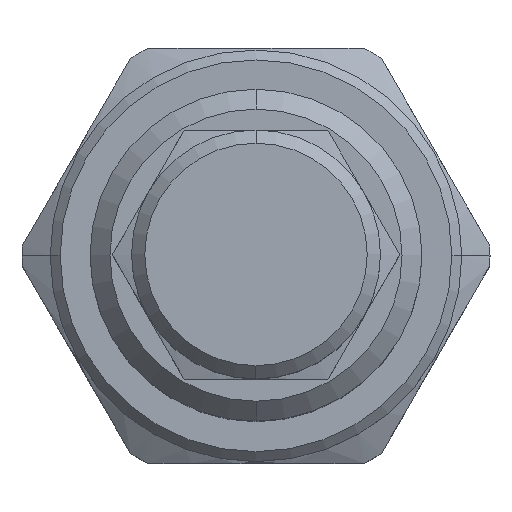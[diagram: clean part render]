
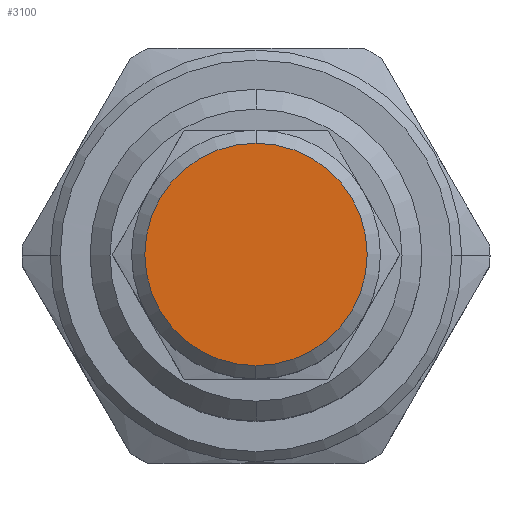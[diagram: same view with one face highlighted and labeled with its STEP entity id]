
A CAD part, top view. The second image highlights one B-rep face of the part: STEP entity #3100.
In plain terms, the highlighted planar face has unit normal (0, 0, 1).
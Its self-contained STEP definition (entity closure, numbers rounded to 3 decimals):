
#1248=CARTESIAN_POINT('',(0.,0.,83.907));
#1249=DIRECTION('',(0.,0.,-1.));
#1250=DIRECTION('',(0.,-1.,0.));
#1251=AXIS2_PLACEMENT_3D('',#1248,#1249,#1250);
#1253=CARTESIAN_POINT('',(0.,0.,83.907));
#1254=DIRECTION('',(0.,0.,-1.));
#1255=DIRECTION('',(0.,1.,0.));
#1256=AXIS2_PLACEMENT_3D('',#1253,#1254,#1255);
#1530=CARTESIAN_POINT('',(0.,8.509,83.907));
#1531=CARTESIAN_POINT('',(0.,-8.509,83.907));
#1532=VERTEX_POINT('',#1530);
#1533=VERTEX_POINT('',#1531);
#3090=CARTESIAN_POINT('',(0.,0.,83.907));
#3091=DIRECTION('',(0.,0.,1.));
#3092=DIRECTION('',(-1.,0.,0.));
#3093=AXIS2_PLACEMENT_3D('',#3090,#3091,#3092);
#3094=PLANE('',#3093);
#3096=ORIENTED_EDGE('',*,*,#3095,.T.);
#3097=ORIENTED_EDGE('',*,*,#3080,.T.);
#3098=EDGE_LOOP('',(#3096,#3097));
#3099=FACE_OUTER_BOUND('',#3098,.F.);
#3100=ADVANCED_FACE('',(#3099),#3094,.T.);
#1252=CIRCLE('',#1251,8.509);
#1257=CIRCLE('',#1256,8.509);
#3080=EDGE_CURVE('',#1532,#1533,#1257,.T.);
#3095=EDGE_CURVE('',#1533,#1532,#1252,.T.);
